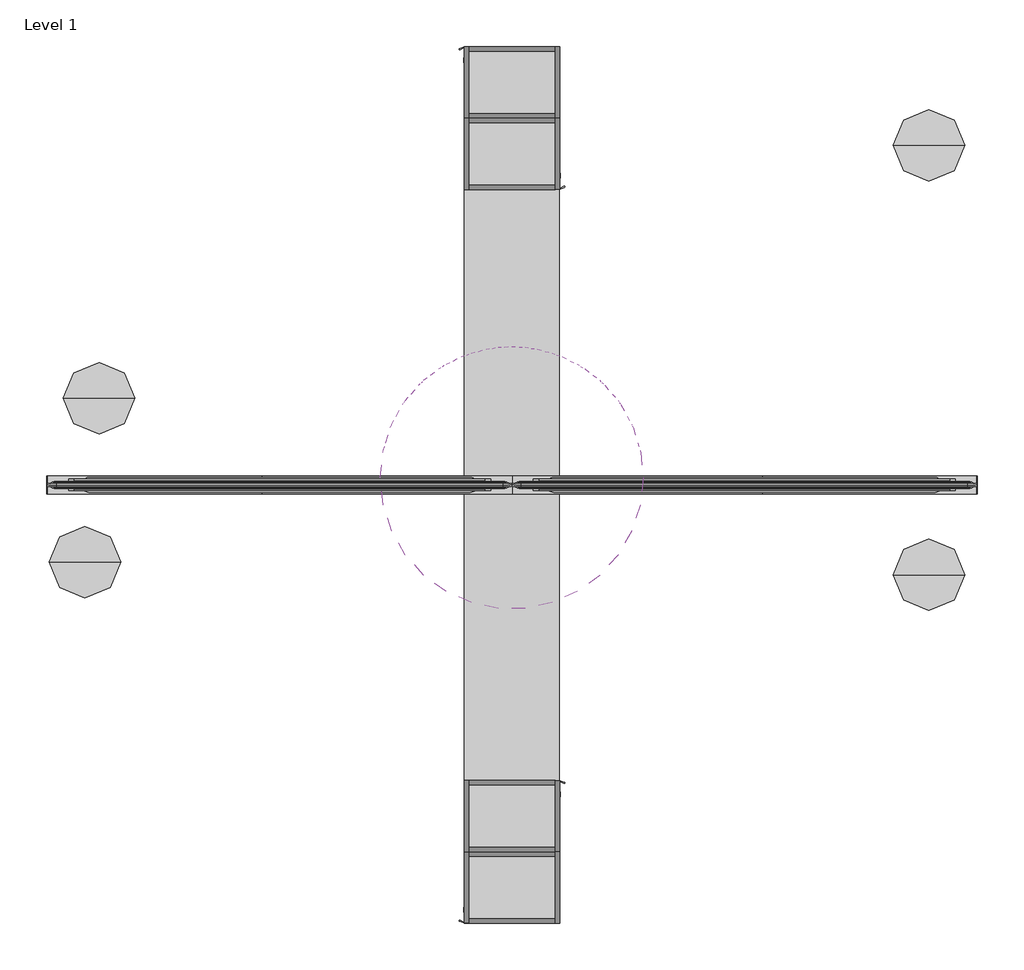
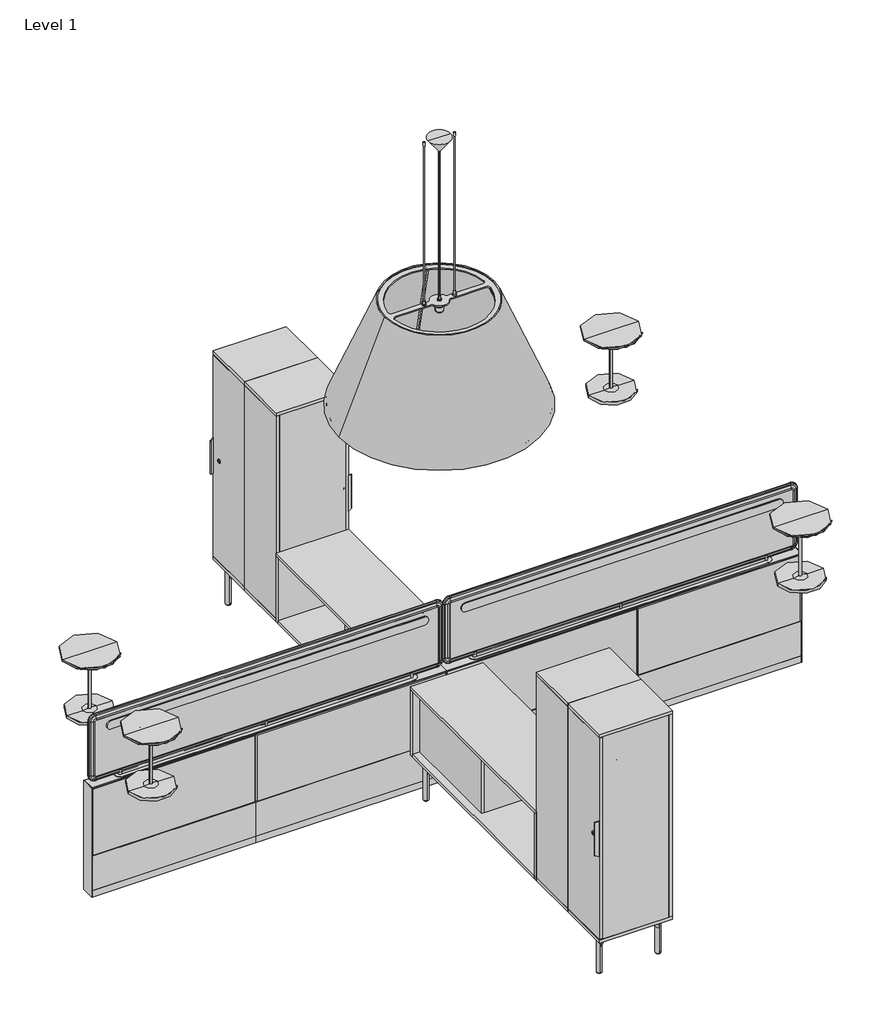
# One storey, incomplete: 14 furniture elements, 5 light fixtures.
"""IFC4 building model written with IfcOpenShell, lengths in millimetres."""

from ifc_helpers import new_model, si_unit, origin, place, context, project, spatial, transform, mapped, element, save
from components import furniture_4580f1de, furniture_bbbaedec, furniture_16h_48w_2317b783, furniture_16h_48w_82f80c26, haworth_composeecho_accessoryframe_78w_16h_adce5783, haworth_composeecho_accessoryframe_78w_16h_9558f845, haworth_compose_panel_solid_25h_36w_280d30b0, haworth_compose_panel_solid_25h_36w_0cc98597, haworth_compose_panel_solid_25h_42w_ea7dca94, haworth_compose_panel_solid_25h_42w_6fae4e9b, leg_9h_4d6a7ffd, light_fixture_a9611ea3, haworth_circa_light_lrt1_1408_table_light_81ebaa20

model = new_model("IFC4")

# Units and contexts
model_context = context("Model", 3, world=origin())
ifc_project = project(units=[si_unit("LENGTHUNIT", "METRE", prefix="MILLI")], contexts=[model_context])

# Site, building, storey
site = spatial("IfcSite", under=ifc_project)
building = spatial("IfcBuilding", under=site)
storey = spatial("IfcBuildingStorey", under=building, Name="Level 1", Elevation=0.0)

# Furniture
placement = place(None, origin())
furniture_shape = furniture_4580f1de(model_context)
element("IfcFurniture", 1, ObjectType="Haworth_BeHold_Wardrobe : Single Door - 12w 16d 49h - Proud Back", at=placement, inside=storey, context=model_context, shape_type="MappedRepresentation", body=[
    mapped(furniture_shape, transform((-292.1767949, 1418.9978459, 215.9), x_axis=(0.0, 1.0, 0.0), y_axis=(-1.0, 0.0, 0.0), z_axis=(0.0, 0.0, 1.0))),
])
element("IfcFurniture", 2, ObjectType="Haworth_BeHold_Wardrobe : Single Door - 12w 16d 49h - Proud Back", at=placement, inside=storey, context=model_context, shape_type="MappedRepresentation", body=[
    mapped(furniture_shape, transform((444.4232051, 1410.0795352, 215.9), x_axis=(0.0, -1.0, 0.0), y_axis=(1.0, 0.0, 0.0), z_axis=(0.0, 0.0, 1.0))),
])
furniture_2_shape = furniture_bbbaedec(model_context)
element("IfcFurniture", 3, ObjectType="Haworth_BeHold_Wardrobe : Single Door - 12w 16d 49h - Proud Back", at=placement, inside=storey, context=model_context, shape_type="MappedRepresentation", body=[
    mapped(furniture_2_shape, transform((-292.1767949, -1720.3932006, 215.9), x_axis=(0.0, -1.0, 0.0), y_axis=(1.0, 0.0, 0.0), z_axis=(0.0, 0.0, 1.0))),
])
element("IfcFurniture", 4, ObjectType="Haworth_BeHold_Wardrobe : Single Door - 12w 16d 49h - Proud Back", at=placement, inside=storey, context=model_context, shape_type="MappedRepresentation", body=[
    mapped(furniture_2_shape, transform((444.4232051, -1711.4748899, 215.9), x_axis=(0.0, 1.0, 0.0), y_axis=(-1.0, 0.0, 0.0), z_axis=(0.0, 0.0, 1.0))),
])
furniture_16h_48w_shape = furniture_16h_48w_2317b783(model_context)
element("IfcFurniture", 5, ObjectType="Haworth_BeHold_OverheadStorage_Open_DoubleSided : 16h 48w", at=placement, inside=storey, context=model_context, shape_type="MappedRepresentation", body=[
    mapped(furniture_16h_48w_shape, transform((-216.738804, -644.674891, -215.5027093), x_axis=(-1.192487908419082e-08, 1.0, 0.0), y_axis=(-1.0, -1.192487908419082e-08, 0.0), z_axis=(0.0, 0.0, 1.0))),
])
furniture_16h_48w_2_shape = furniture_16h_48w_82f80c26(model_context)
element("IfcFurniture", 6, ObjectType="Haworth_BeHold_OverheadStorage_Open_DoubleSided : 16h 48w", at=placement, inside=storey, context=model_context, shape_type="MappedRepresentation", body=[
    mapped(furniture_16h_48w_2_shape, transform((-216.738804, 343.2795363, -215.5027093), x_axis=(-1.1924768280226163e-08, -1.0, 0.0), y_axis=(1.0, -1.1924768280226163e-08, 0.0), z_axis=(0.0, 0.0, 1.0))),
])
haworth_composeecho_accessoryframe_78w_16h_shape = haworth_composeecho_accessoryframe_78w_16h_adce5783(model_context)
element("IfcFurniture", 7, ObjectType="Haworth_ComposeEcho_AccessoryFrame : 78w 16h", at=placement, inside=storey, context=model_context, shape_type="MappedRepresentation", body=[
    mapped(haworth_composeecho_accessoryframe_78w_16h_shape, transform((1064.2829149, -150.6976773, -409.575), x_axis=(1.0, 0.0, 0.0), y_axis=(0.0, 1.0, 0.0), z_axis=(0.0, 0.0, 1.0))),
])
haworth_composeecho_accessoryframe_78w_16h_2_shape = haworth_composeecho_accessoryframe_78w_16h_9558f845(model_context)
element("IfcFurniture", 8, ObjectType="Haworth_ComposeEcho_AccessoryFrame : 78w 16h", at=placement, inside=storey, context=model_context, shape_type="MappedRepresentation", body=[
    mapped(haworth_composeecho_accessoryframe_78w_16h_2_shape, transform((-912.0365047, -150.6976773, -409.575), x_axis=(-1.0, 0.0, 0.0), y_axis=(0.0, -1.0, 0.0), z_axis=(0.0, 0.0, 1.0))),
])
haworth_compose_panel_solid_25h_36w_shape = haworth_compose_panel_solid_25h_36w_280d30b0(model_context)
element("IfcFurniture", 9, ObjectType="Haworth_Compose_Panel_Solid : 25h 36w", at=placement, inside=storey, context=model_context, shape_type="MappedRepresentation", body=[
    mapped(haworth_compose_panel_solid_25h_36w_shape, transform((1602.5634953, -150.6976773, 0.0), x_axis=(-1.0, 0.0, 0.0), y_axis=(0.0, -1.0, 0.0), z_axis=(0.0, 0.0, 1.0))),
])
haworth_compose_panel_solid_25h_36w_2_shape = haworth_compose_panel_solid_25h_36w_0cc98597(model_context)
element("IfcFurniture", 10, ObjectType="Haworth_Compose_Panel_Solid : 25h 36w", at=placement, inside=storey, context=model_context, shape_type="MappedRepresentation", body=[
    mapped(haworth_compose_panel_solid_25h_36w_2_shape, transform((-1450.3170851, -150.6976773, 0.0), x_axis=(1.0, 0.0, 0.0), y_axis=(0.0, 1.0, 0.0), z_axis=(0.0, 0.0, 1.0))),
])
haworth_compose_panel_solid_25h_42w_shape = haworth_compose_panel_solid_25h_42w_ea7dca94(model_context)
element("IfcFurniture", 11, ObjectType="Haworth_Compose_Panel_Solid : 25h 42w", at=placement, inside=storey, context=model_context, shape_type="MappedRepresentation", body=[
    mapped(haworth_compose_panel_solid_25h_42w_shape, transform((611.9634953, -150.6976773, 0.0), x_axis=(-1.0, 0.0, 0.0), y_axis=(0.0, -1.0, 0.0), z_axis=(0.0, 0.0, 1.0))),
])
haworth_compose_panel_solid_25h_42w_2_shape = haworth_compose_panel_solid_25h_42w_6fae4e9b(model_context)
element("IfcFurniture", 12, ObjectType="Haworth_Compose_Panel_Solid : 25h 42w", at=placement, inside=storey, context=model_context, shape_type="MappedRepresentation", body=[
    mapped(haworth_compose_panel_solid_25h_42w_2_shape, transform((-459.7170851, -150.6976773, 0.0), x_axis=(1.0, 0.0, 0.0), y_axis=(0.0, 1.0, 0.0), z_axis=(0.0, 0.0, 1.0))),
])
leg_9h_shape = leg_9h_4d6a7ffd(model_context)
element("IfcFurniture", 13, ObjectType="Haworth_BeHold_Leg_Single : Leg - 9h", at=placement, inside=storey, context=model_context, shape_type="MappedRepresentation", body=[
    mapped(leg_9h_shape, transform((-212.8017992, -950.0817461, 0.0), x_axis=(-1.1924879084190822e-08, 1.0, 0.0), y_axis=(-1.0, -1.1924879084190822e-08, 0.0), z_axis=(0.0, 0.0, 1.0))),
])
element("IfcFurniture", 14, ObjectType="Haworth_BeHold_Leg_Single : Leg - 9h", at=placement, inside=storey, context=model_context, shape_type="MappedRepresentation", body=[
    mapped(leg_9h_shape, transform((-215.8462894, 958.599986, 0.0), x_axis=(-1.1924879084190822e-08, 1.0, 0.0), y_axis=(-1.0, -1.1924879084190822e-08, 0.0), z_axis=(0.0, 0.0, 1.0))),
])

# Light fixtures
light_fixture_shape = light_fixture_a9611ea3(model_context)
element("IfcLightFixture", 15, ObjectType="Haworth_BuzziShade_Light : HCBZ-SHP2 - Large", at=placement, inside=storey, context=model_context, shape_type="MappedRepresentation", body=[
    mapped(light_fixture_shape, transform((75.0330269, -120.107856, 3765.55), x_axis=(1.0, 0.0, 0.0), y_axis=(0.0, -1.0, 0.0), z_axis=(0.0, 0.0, -1.0))),
])
haworth_circa_light_lrt1_1408_table_light_shape = haworth_circa_light_lrt1_1408_table_light_81ebaa20(model_context)
element("IfcLightFixture", 16, ObjectType="Haworth_Circa_Light : LRT1-1408 - Table Light", at=placement, inside=storey, context=model_context, shape_type="MappedRepresentation", body=[
    mapped(haworth_circa_light_lrt1_1408_table_light_shape, transform((-1774.4615918, -704.5191441, 50.8), x_axis=(1.0, 0.0, 0.0), y_axis=(0.0, 1.0, 0.0), z_axis=(0.0, 0.0, 1.0))),
])
element("IfcLightFixture", 17, ObjectType="Haworth_Circa_Light : LRT1-1408 - Table Light", at=placement, inside=storey, context=model_context, shape_type="MappedRepresentation", body=[
    mapped(haworth_circa_light_lrt1_1408_table_light_shape, transform((-1713.5899929, -5.106139, 50.8), x_axis=(1.0, 0.0, 0.0), y_axis=(0.0, 1.0, 0.0), z_axis=(0.0, 0.0, 1.0))),
])
element("IfcLightFixture", 18, ObjectType="Haworth_Circa_Light : LRT1-1408 - Table Light", at=placement, inside=storey, context=model_context, shape_type="MappedRepresentation", body=[
    mapped(haworth_circa_light_lrt1_1408_table_light_shape, transform((1824.4692004, -758.426753, 50.8), x_axis=(1.0, 0.0, 0.0), y_axis=(0.0, 1.0, 0.0), z_axis=(0.0, 0.0, 1.0))),
])
element("IfcLightFixture", 19, ObjectType="Haworth_Circa_Light : LRT1-1408 - Table Light", at=placement, inside=storey, context=model_context, shape_type="MappedRepresentation", body=[
    mapped(haworth_circa_light_lrt1_1408_table_light_shape, transform((1824.4692004, 1073.9292315, 50.8), x_axis=(1.0, 0.0, 0.0), y_axis=(0.0, 1.0, 0.0), z_axis=(0.0, 0.0, 1.0))),
])

save(model, "model.ifc")
